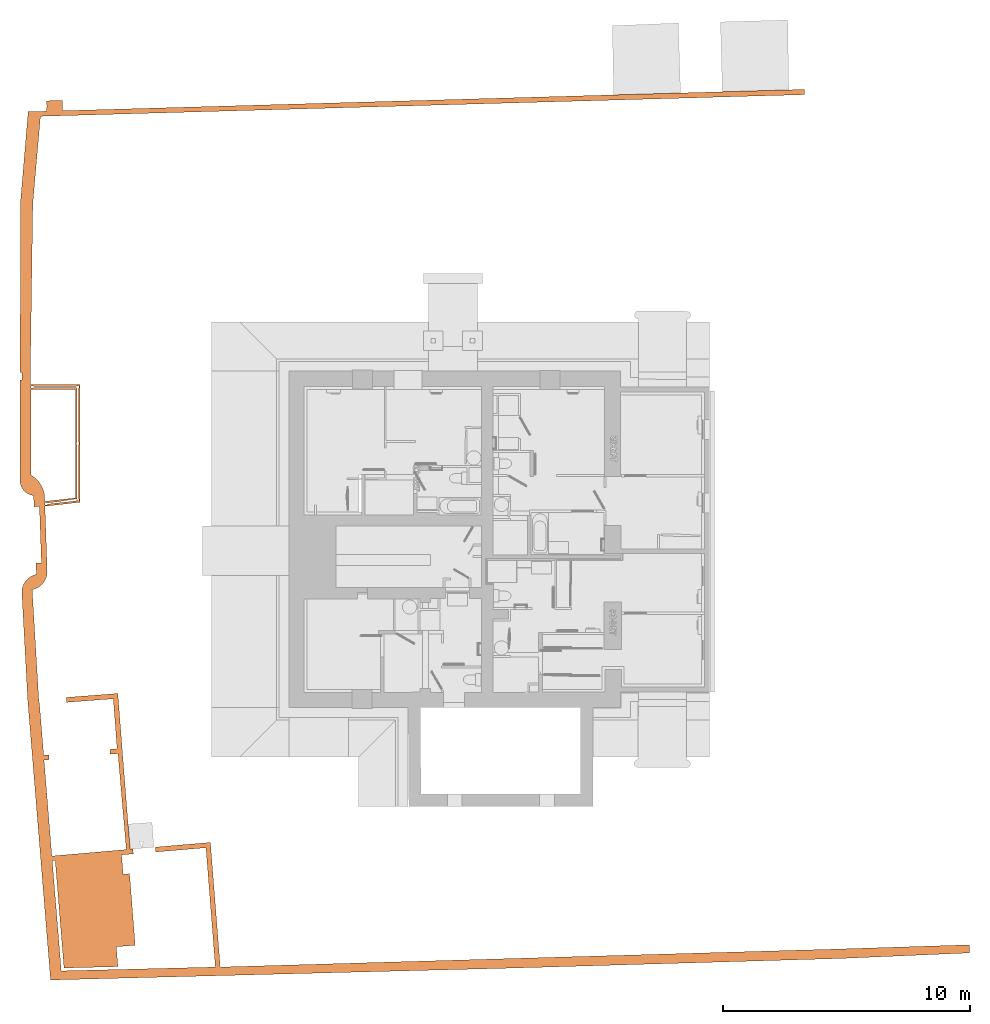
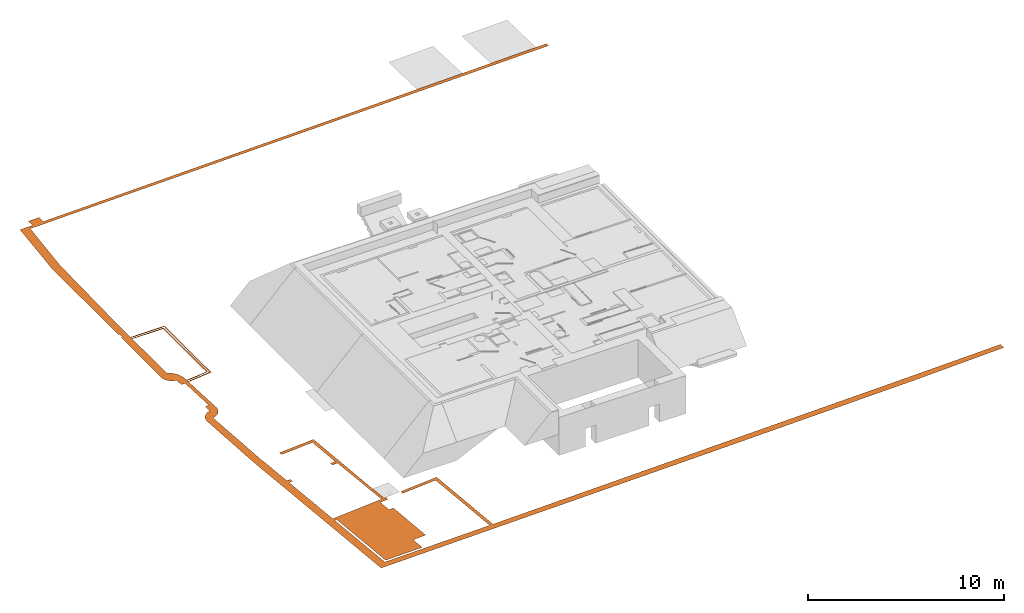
# Not in any storey, part 14 of 22: 1 proxy.
"""IFC4 model written with IfcOpenShell, lengths in metres."""

from ifc_helpers import new_model, si_unit, direction, origin_with_axes, place, context, subcontext, project, faceted_brep, element, save


model = new_model("IFC4")

# Units and contexts
model_context = context("Model", 3, precision=1e-05, world=origin_with_axes(), true_north=direction((1.0, 0.0)))
body_context = subcontext(model_context, "Body", "Model", "MODEL_VIEW")
ifc_project = project(units=[si_unit("LENGTHUNIT", "METRE"), si_unit("AREAUNIT", "SQUARE_METRE"), si_unit("VOLUMEUNIT", "CUBIC_METRE"), si_unit("MASSUNIT", "GRAM", prefix="KILO"), si_unit("TIMEUNIT", "SECOND"), si_unit("PLANEANGLEUNIT", "RADIAN"), si_unit("SOLIDANGLEUNIT", "STERADIAN")], contexts=[model_context])

# Proxy
proxy_placement = place(None, origin_with_axes())
element("IfcBuildingElementProxy", 1, at=proxy_placement, Name="Undefined", PredefinedType="NOTDEFINED", context=body_context, shape_type="Brep", body=[
    faceted_brep([(130.499933, 21.957707, 2.31), (130.487233, 22.385301, 2.31), (130.348478, 22.378694, 2.31), (130.262781, 22.374614, 2.31), (130.042705, 22.364135, 2.31), (130.059639, 21.911138, 2.31), (130.240905, 21.93031, 2.31), (130.398327, 14.04934, 2.31), (130.321352, 14.027348, 2.31), (130.27126, 14.013036, 2.31), (130.266721, 14.011739, 2.31), (130.229682, 14.001157, 2.31), (130.161246, 13.981605, 2.31), (130.170292, 13.875712, 2.31), (130.170375, 13.874742, 2.31), (130.173551, 13.837558, 2.31), (130.18116, 13.748498, 2.31), (130.22817, 13.198209, 2.31), (130.229042, 13.188003, 2.31), (130.229912, 13.177823, 2.31), (130.233218, 13.139117, 2.31), (130.241614, 13.138085, 2.31), (130.474532, 13.109481, 2.31), (130.453365, 13.371966, 2.31), (130.451533, 13.393134, 2.31), (130.447414, 13.443938, 2.31), (130.446534, 13.454795, 2.31), (130.445698, 13.465106, 2.31), (130.114674, 13.97737, 2.31), (130.127636, 13.816155, 2.31), (130.127681, 13.815602, 2.31), (130.130373, 13.782111, 2.31), (130.146434, 13.582356, 2.31), (130.181887, 13.141421, 2.31), (130.182381, 13.135282, 2.31), (130.186303, 13.135577, 2.31), (130.195979, 13.136308, 2.31), (130.00504, 13.969348, 2.31), (130.033404, 13.97177, 2.31), (130.005297, 13.969607, 2.31), (129.941099, 13.964669, 2.31), (130.008834, 13.122184, 2.31), (130.028048, 13.123662, 2.31), (130.118912, 13.13065, 2.31), (130.474521, 40.679063, 2.31), (130.474057, 40.678676, 2.31), (130.474532, 40.67869, 2.31), (131.122211, 40.697681, 2.31), (131.109573, 41.118983, 2.31), (130.461832, 41.097816, 2.31), (130.466066, 40.953873, 2.31), (130.466202, 40.9536, 2.31), (130.470299, 40.945406, 2.31), (130.478766, 40.93694, 2.31), (130.482999, 40.928473, 2.31), (130.487233, 40.920004, 2.31), (130.487233, 40.911537, 2.31), (130.491466, 40.90307, 2.31), (130.491466, 40.894603, 2.31), (130.491466, 40.881903, 2.31), (130.491466, 40.873436, 2.31), (130.491466, 40.864969, 2.31), (130.487233, 40.852267, 2.31), (130.482999, 40.8438, 2.31), (130.478766, 40.835333, 2.31), (130.474532, 40.826866, 2.31), (130.470299, 40.818397, 2.31), (145.610618, 5.854123, 2.31), (147.396717, 5.900174, 2.31), (147.397644, 5.901166, 2.31), (146.50617, 5.877748, 2.31), (146.054182, 5.865792, 2.31), (145.610714, 5.854226, 2.31), (145.406441, 5.848859, 2.31), (149.182814, 5.946229, 2.31), (149.184574, 5.94811, 2.31), (133.130395, 10.507215, 2.31), (132.535898, 10.457257, 2.31), (130.821857, 10.313214, 2.31), (130.850208, 9.965581, 2.31), (130.850226, 9.965363, 2.31), (130.850235, 9.965249, 2.31), (130.850571, 9.961133, 2.31), (130.85058, 9.961022, 2.31), (130.850666, 9.959966, 2.31), (130.850676, 9.959844, 2.31), (130.851191, 9.953526, 2.31), (130.851239, 9.952943, 2.31), (130.85126, 9.952676, 2.31), (130.851577, 9.948792, 2.31), (130.851606, 9.948441, 2.31), (130.851653, 9.947858, 2.31), (130.851922, 9.944562, 2.31), (130.854079, 9.918118, 2.31), (130.854116, 9.917664, 2.31), (130.854559, 9.912225, 2.31), (130.85498, 9.907071, 2.31), (130.85527, 9.903504, 2.31), (130.855279, 9.903401, 2.31), (130.855375, 9.902219, 2.31), (130.855814, 9.896848, 2.31), (130.859339, 9.853616, 2.31), (130.859356, 9.85341, 2.31), (130.859685, 9.849374, 2.31), (130.859704, 9.849145, 2.31), (130.859792, 9.848058, 2.31), (130.859803, 9.847932, 2.31), (130.860327, 9.841508, 2.31), (130.860374, 9.840928, 2.31), (130.860722, 9.836652, 2.31), (130.860792, 9.835801, 2.31), (130.86081, 9.835576, 2.31), (130.860837, 9.835252, 2.31), (130.862038, 9.820516, 2.31), (130.862809, 9.811074, 2.31), (130.863037, 9.808267, 2.31), (130.86354, 9.802102, 2.31), (130.863576, 9.801671, 2.31), (130.863581, 9.80161, 2.31), (130.863601, 9.801362, 2.31), (130.86361, 9.801248, 2.31), (130.863645, 9.800813, 2.31), (130.863747, 9.799573, 2.31), (130.863757, 9.799451, 2.31), (130.863768, 9.799306, 2.31), (130.863775, 9.799226, 2.31), (130.863787, 9.799081, 2.31), (130.863797, 9.798959, 2.31), (130.863815, 9.798734, 2.31), (130.863825, 9.798608, 2.31), (130.863844, 9.798383, 2.31), (130.863929, 9.797337, 2.31), (130.863963, 9.796914, 2.31), (130.863998, 9.796487, 2.31), (130.864034, 9.796052, 2.31), (130.864044, 9.795926, 2.31), (130.8641, 9.795247, 2.31), (130.864283, 9.792993, 2.31), (130.864318, 9.792561, 2.31), (130.864417, 9.791356, 2.31), (130.864462, 9.790799, 2.31), (130.865017, 9.783998, 2.31), (130.865036, 9.783765, 2.31), (130.865043, 9.783677, 2.31), (130.865051, 9.783578, 2.31), (130.865405, 9.779233, 2.31), (130.865424, 9.779004, 2.31), (130.865431, 9.778913, 2.31), (130.86544, 9.778813, 2.31), (130.866356, 9.767571, 2.31), (130.866518, 9.765588, 2.31), (130.866553, 9.765161, 2.31), (130.877452, 9.631524, 2.31), (130.916289, 9.155301, 2.31), (130.922245, 9.08228, 2.31), (130.988472, 8.270219, 2.31), (130.990402, 8.246549, 2.31), (130.993034, 8.21428, 2.31), (130.993187, 8.212407, 2.31), (130.993197, 8.212281, 2.31), (130.993722, 8.205842, 2.31), (130.994432, 8.197133, 2.31), (130.994474, 8.196618, 2.31), (130.995664, 8.182031, 2.31), (130.997662, 8.157525, 2.31), (130.999066, 8.140309, 2.31), (131.000666, 8.120698, 2.31), (131.015142, 7.943192, 2.31), (131.027911, 7.786618, 2.31), (131.061749, 7.371701, 2.31), (131.07452, 7.215116, 2.31), (131.076501, 7.190816, 2.31), (131.084165, 7.096837, 2.31), (131.087375, 7.057492, 2.31), (131.095245, 6.960984, 2.31), (131.108358, 6.800199, 2.31), (131.121127, 6.643628, 2.31), (131.154965, 6.228703, 2.31), (131.167734, 6.072133, 2.31), (131.177312, 5.954698, 2.31), (131.507532, 5.963166, 2.31), (131.681107, 5.967401, 2.31), (133.36608, 6.009732, 2.31), (133.298343, 6.814118, 2.31), (133.803061, 6.853158, 2.31), (134.064626, 6.873387, 2.31), (133.854548, 9.542165, 2.31), (133.836012, 9.777638, 2.31), (133.620097, 9.756471, 2.31), (133.57776, 9.752236, 2.31), (133.518492, 10.442315, 2.31), (133.510064, 10.53922, 2.31), (130.756457, 10.499284, 2.31), (130.686212, 10.493119, 2.31), (130.703146, 10.302606, 2.31), (130.784722, 10.309483, 2.31), (132.519487, 10.652532, 2.31), (130.775167, 10.500924, 2.31), (152.703363, 41.106888, 2.31), (152.387787, 41.097964, 2.31), (152.387648, 41.097816, 2.31), (153.209001, 41.121187, 2.31), (153.730928, 41.137224, 2.31), (157.180086, 41.23329, 2.31), (157.307747, 41.238221, 2.31), (157.340652, 41.239492, 2.31), (157.340961, 41.239504, 2.31), (160.181707, 41.322197, 2.31), (160.181707, 41.53302, 2.31), (159.948637, 41.52632, 2.31), (159.911936, 41.525265, 2.31), (159.643841, 41.517558, 2.31), (159.339027, 41.508796, 2.31), (159.038425, 41.500155, 2.31), (158.733629, 41.491393, 2.31), (158.433029, 41.482752, 2.31), (158.128233, 41.473991, 2.31), (157.85712, 41.466197, 2.31), (156.167902, 41.417639, 2.31), (155.871551, 41.409121, 2.31), (155.575186, 41.400601, 2.31), (155.274622, 41.391961, 2.31), (154.978269, 41.383443, 2.31), (154.681921, 41.374924, 2.31), (154.385555, 41.366404, 2.31), (154.084989, 41.357764, 2.31), (153.788641, 41.349246, 2.31), (153.454342, 41.339636, 2.31), (131.26981, 40.701924, 2.31), (131.148172, 40.497344, 2.31), (152.38895, 41.099203, 2.31), (132.742843, 10.671956, 2.31), (133.493214, 10.737203, 2.31), (132.880323, 10.683911, 2.31), (132.880201, 10.6839, 2.31), (132.869438, 10.682961, 2.31), (132.868746, 10.682904, 2.31), (132.852543, 10.681493, 2.31), (132.849739, 10.681249, 2.31), (132.848439, 10.681138, 2.31), (132.83922, 10.680337, 2.31), (132.831757, 10.679688, 2.31), (132.827301, 10.679299, 2.31), (132.821789, 10.678819, 2.31), (132.819095, 10.678586, 2.31), (132.756989, 10.673184, 2.31), (129.398606, 28.174703, 2.31), (129.396733, 26.936421, 2.31), (129.414916, 26.936421, 2.31), (129.788687, 26.936421, 2.31), (129.836931, 26.936421, 2.31), (129.830642, 29.399561, 2.31), (129.830159, 29.588756, 2.31), (129.830131, 29.599835, 2.31), (129.826792, 30.907539, 2.31), (129.832867, 31.319179, 2.31), (129.834655, 31.440333, 2.31), (129.837631, 31.642018, 2.31), (129.855518, 32.854028, 2.31), (129.876381, 34.267728, 2.31), (129.890293, 35.21311, 2.31), (129.911196, 36.626855, 2.31), (129.915698, 36.931953, 2.31), (129.931488, 37.112778, 2.31), (130.021008, 38.137963, 2.31), (130.065551, 38.648067, 2.31), (130.11044, 39.16306, 2.31), (130.155071, 39.673254, 2.31), (130.199616, 40.183394, 2.31), (130.224752, 40.471243, 2.31), (130.477259, 40.47838, 2.31), (130.925943, 40.491063, 2.31), (129.725186, 40.657523, 2.31), (129.634231, 39.584501, 2.31), (129.590702, 39.070979, 2.31), (129.547373, 38.557656, 2.31), (129.460927, 37.539983, 2.31), (129.417791, 37.031097, 2.31), (129.411899, 36.961589, 2.31), (129.410591, 36.096797, 2.31), (129.409885, 35.630375, 2.31), (129.409179, 35.163928, 2.31), (129.408474, 34.697477, 2.31), (129.407665, 34.230916, 2.31), (129.40637, 33.306881, 2.31), (129.405664, 32.840439, 2.31), (129.404959, 32.373992, 2.31), (129.404253, 31.907545, 2.31), (129.403457, 31.45921, 2.31), (129.402855, 30.983379, 2.31), (129.402149, 30.516941, 2.31), (129.401504, 30.090455, 2.31), (129.438791, 30.090455, 2.31), (129.4754, 30.090455, 2.31), (129.4754, 29.942279, 2.31), (129.4754, 29.789868, 2.31), (129.440409, 29.789868, 2.31), (129.401049, 29.789868, 2.31), (129.400788, 29.617292, 2.31), (129.400738, 29.584084, 2.31), (129.400534, 29.449195, 2.31), (129.400534, 29.449113, 2.31), (129.400115, 29.171987, 2.31), (129.400069, 29.141691, 2.31), (129.400033, 29.117617, 2.31), (129.39969, 28.92766, 2.31), (129.398986, 28.481402, 2.31), (129.398774, 28.30754, 2.31), (129.395354, 26.02535, 2.31), (129.394965, 25.933059, 2.31), (129.788687, 25.933059, 2.31), (129.788687, 25.983861, 2.31), (129.839492, 25.983861, 2.31), (129.839492, 26.013497, 2.31), (129.838458, 26.338382, 2.31), (129.83706, 26.885619, 2.31), (129.788687, 26.885619, 2.31), (129.839492, 25.933059, 2.31), (129.394965, 25.767949, 2.31), (129.39644, 25.675031, 2.31), (129.398875, 25.645148, 2.31), (129.404641, 25.605872, 2.31), (129.412926, 25.56705, 2.31), (129.423694, 25.528842, 2.31), (129.436901, 25.491406, 2.31), (129.438388, 25.487925, 2.31), (129.450537, 25.459475, 2.31), (129.452492, 25.4549, 2.31), (129.470402, 25.419473, 2.31), (129.477109, 25.408092, 2.31), (129.490557, 25.385274, 2.31), (129.512873, 25.352445, 2.31), (129.537257, 25.32112, 2.31), (129.563609, 25.29143, 2.31), (129.591819, 25.263501, 2.31), (129.621769, 25.237447, 2.31), (129.653335, 25.213376, 2.31), (129.683653, 25.193208, 2.31), (129.686386, 25.19139, 2.31), (129.720785, 25.171576, 2.31), (129.756388, 25.154021, 2.31), (129.793049, 25.138795, 2.31), (129.804372, 25.134927, 2.31), (129.830614, 25.125962, 2.31), (129.868928, 25.115577, 2.31), (129.907831, 25.10768, 2.31), (129.945359, 25.102551, 2.31), (129.945332, 25.103272, 2.31), (129.984621, 25.100306, 2.31), (130.263638, 25.079249, 2.31), (130.394093, 25.069404, 2.31), (130.390154, 25.095998, 2.31), (130.380231, 25.162972, 2.31), (130.374799, 25.191527, 2.31), (130.371487, 25.20894, 2.31), (130.353809, 25.277701, 2.31), (130.341086, 25.316707, 2.31), (130.331793, 25.345201, 2.31), (130.317792, 25.380359, 2.31), (130.306749, 25.408092, 2.31), (130.305527, 25.41116, 2.31), (130.295539, 25.432235, 2.31), (130.253879, 25.513625, 2.31), (130.240692, 25.537408, 2.31), (130.202384, 25.597184, 2.31), (130.195213, 25.606946, 2.31), (130.160351, 25.654403, 2.31), (130.131625, 25.688699, 2.31), (130.116785, 25.706416, 2.31), (130.114763, 25.708831, 2.31), (130.080979, 25.744313, 2.31), (130.065806, 25.760249, 2.31), (130.013677, 25.808448, 2.31), (129.993629, 25.824746, 2.31), (129.982976, 25.833407, 2.31), (129.958587, 25.853234, 2.31), (129.95418, 25.856374, 2.31), (129.949243, 25.859889, 2.31), (129.900759, 25.894425, 2.31), (129.870595, 25.913138, 2.31), (130.406793, 24.667212, 2.31), (130.182413, 24.654511, 2.31), (130.196463, 24.255948, 2.31), (130.207031, 23.956145, 2.31), (130.46966, 22.883807, 2.31), (130.415832, 24.410794, 2.31), (130.603441, 5.825284, 2.31), (131.068286, 5.836862, 2.31), (130.715846, 10.154427, 2.31), (130.25457, 10.114087, 2.31), (133.775993, 11.789979, 2.31), (133.772507, 11.830934, 2.31), (133.674079, 11.823228, 2.31), (133.673898, 11.823216, 2.31), (133.673533, 11.823186, 2.31), (133.61163, 11.818234, 2.31), (133.614595, 11.784406, 2.31), (133.614612, 11.784207, 2.31), (133.614621, 11.784108, 2.31), (133.614857, 11.781415, 2.31), (133.615127, 11.778336, 2.31), (133.615136, 11.778237, 2.31), (133.615278, 11.776616, 2.31), (133.615287, 11.776509, 2.31), (133.616068, 11.767602, 2.31), (133.616114, 11.767079, 2.31), (133.616644, 11.761029, 2.31), (133.616687, 11.760537, 2.31), (133.616732, 11.760018, 2.31), (133.617159, 11.755151, 2.31), (133.620377, 11.718438, 2.31), (133.620412, 11.718038, 2.31), (133.621109, 11.710084, 2.31), (133.621705, 11.703279, 2.31), (133.62214, 11.698323, 2.31), (133.622148, 11.698235, 2.31), (133.622453, 11.694749, 2.31), (133.62287, 11.69, 2.31), (133.6963, 10.848741, 2.31), (133.696581, 10.849027, 2.31), (133.704769, 10.755601, 2.31), (133.862897, 10.769059, 2.31), (133.839745, 11.041036, 2.31), (133.818564, 11.289872, 2.31), (133.797617, 11.535947, 2.31), (133.701996, 12.733493, 2.31), (133.531193, 12.719991, 2.31), (133.533559, 12.693456, 2.31), (133.544802, 12.567418, 2.31), (133.546254, 12.551146, 2.31), (133.578281, 12.19209, 2.31), (133.580543, 12.166741, 2.31), (133.585943, 12.106202, 2.31), (133.586015, 12.105397, 2.31), (133.586573, 12.099141, 2.31), (133.58659, 12.098954, 2.31), (133.587438, 12.089436, 2.31), (133.587586, 12.087785, 2.31), (133.588096, 12.082067, 2.31), (133.588134, 12.081643, 2.31), (133.595408, 12.000089, 2.31), (133.602503, 11.920552, 2.31), (133.602522, 11.920342, 2.31), (133.602601, 11.91945, 2.31), (133.60262, 11.91924, 2.31), (133.603124, 11.91359, 2.31), (133.603143, 11.913381, 2.31), (133.603202, 11.912717, 2.31), (133.603211, 11.912614, 2.31), (133.604071, 11.90297, 2.31), (133.60409, 11.90276, 2.31), (133.604691, 11.896016, 2.31), (133.604699, 11.895936, 2.31), (133.60471, 11.895806, 2.31), (133.604718, 11.895726, 2.31), (133.605214, 11.890157, 2.31), (133.605233, 11.889947, 2.31), (131.880225, 16.765683, 2.31), (131.880087, 16.767314, 2.31), (131.863179, 16.965985, 2.31), (131.74482, 16.956933, 2.31), (131.175237, 16.913373, 2.31), (131.174911, 16.913041, 2.31), (131.174631, 16.912755, 2.31), (131.266214, 16.919724, 2.31), (131.270447, 16.86892, 2.31), (131.283152, 16.720744, 2.31), (130.961984, 16.695943, 2.31), (130.961394, 16.695342, 2.31), (131.599646, 16.744203, 2.31), (132.042844, 16.778132, 2.31), (133.175569, 16.864686, 2.31), (133.179945, 16.807807, 2.31), (133.184944, 16.742818, 2.31), (133.214275, 16.361505, 2.31), (133.223653, 16.239594, 2.31), (133.232382, 16.126115, 2.31), (133.23254, 16.124059, 2.31), (133.233393, 16.112969, 2.31), (133.233433, 16.112454, 2.31), (133.234086, 16.103963, 2.31), (133.234125, 16.103448, 2.31), (133.252985, 15.858272, 2.31), (133.253572, 15.850633, 2.31), (133.25359, 15.850402, 2.31), (133.254341, 15.84064, 2.31), (133.254382, 15.840116, 2.31), (133.256007, 15.818988, 2.31), (133.45922, 15.835921, 2.31), (133.412652, 16.424392, 2.31), (133.383014, 16.801181, 2.31), (133.361238, 17.079894, 2.31), (133.361187, 17.08055, 2.31), (133.17203, 14.626395, 2.31), (133.36608, 14.642045, 2.31), (133.37252, 14.567082, 2.31), (133.372724, 14.564708, 2.31), (133.373916, 14.55082, 2.31), (133.373948, 14.550456, 2.31), (133.375137, 14.536611, 2.31), (133.375153, 14.536427, 2.31), (133.377229, 14.512261, 2.31), (133.377276, 14.511712, 2.31), (133.377787, 14.505759, 2.31), (133.377819, 14.505393, 2.31), (133.379476, 14.4861, 2.31), (133.400913, 14.23656, 2.31), (133.454986, 13.609048, 2.31), (133.476601, 13.355479, 2.31), (133.488627, 13.215491, 2.31), (133.506778, 13.004203, 2.31), (133.528759, 14.943145, 2.31), (133.416324, 14.933576, 2.31), (133.402496, 14.932399, 2.31), (133.321761, 14.925528, 2.31), (133.32683, 14.856637, 2.31), (133.327979, 14.841023, 2.31), (133.323343, 14.840621, 2.31), (133.309645, 14.839431, 2.31), (133.174986, 14.827722, 2.31), (133.03586, 14.815623, 2.31), (133.052793, 14.616645, 2.31), (133.090259, 14.619765, 2.31), (133.103599, 14.620877, 2.31), (134.898457, 10.656255, 2.31), (136.930774, 10.827573, 2.31), (137.311797, 5.992799, 2.31), (134.144954, 5.913686, 2.31), (133.92915, 5.908128, 2.31), (132.413534, 5.870374, 2.31), (131.549866, 5.848859, 2.31), (130.632259, 5.467927, 2.31), (137.539513, 5.64602, 2.31), (137.512094, 5.992837, 2.31), (137.148629, 10.590512, 2.31), (137.148478, 10.59242, 2.31), (137.146006, 10.623681, 2.31), (137.142246, 10.67125, 2.31), (137.142224, 10.671529, 2.31), (137.142186, 10.672009, 2.31), (137.142166, 10.672265, 2.31), (137.132232, 10.797925, 2.31), (137.11282, 11.043485, 2.31), (137.011059, 11.034863, 2.31), (136.869899, 11.022908, 2.31), (136.270332, 10.971513, 2.31), (136.117921, 10.958814, 2.31), (135.673393, 10.920712, 2.31), (134.881936, 10.854489, 2.31), (133.769392, 10.560266, 2.31), (133.988311, 10.579534, 2.31), (133.975865, 10.778676, 2.31), (133.671326, 10.552812, 2.31), (133.6709, 10.552388, 2.31), (137.011212, 11.03502, 2.31), (133.361847, 17.0806, 2.31), (133.282167, 15.463517, 2.31), (133.260129, 15.762967, 2.31), (133.261427, 15.745337, 2.31), (133.270815, 15.61777, 2.31), (133.271423, 15.609506, 2.31), (133.276878, 15.535388, 2.31), (133.277553, 15.526219, 2.31), (133.277712, 15.52406, 2.31), (133.278175, 15.517772, 2.31), (133.278541, 15.51279, 2.31), (133.280943, 15.480157, 2.31), (133.280982, 15.479621, 2.31), (152.687746, 6.436807, 2.31), (153.136814, 6.449838, 2.31), (153.136995, 6.450028, 2.31), (143.289641, 6.162145, 2.31), (142.840307, 6.148835, 2.31), (142.391122, 6.135682, 2.31), (141.941941, 6.122533, 2.31), (141.497084, 6.109509, 2.31), (141.04794, 6.096356, 2.31), (140.59877, 6.083207, 2.31), (138.810492, 6.0309, 2.31), (138.365609, 6.017827, 2.31), (137.916421, 6.004674, 2.31), (149.628116, 5.95976, 2.31), (150.076101, 5.971631, 2.31), (150.241215, 5.975865, 2.31), (150.969393, 5.997033, 2.31), (151.418743, 6.010369, 2.31), (151.73757, 6.019711, 2.31), (151.86359, 6.023404, 2.31), (152.312786, 6.036565, 2.31), (155.444309, 6.128274, 2.31), (155.893553, 6.141488, 2.31), (156.342735, 6.154649, 2.31), (159.92346, 6.259515, 2.31), (160.372702, 6.272733, 2.31), (162.66683, 6.339955, 2.31), (163.060556, 6.356889, 2.31), (166.237207, 6.493924, 2.31), (166.688749, 6.513532, 2.31), (167.595549, 6.552503, 2.31), (167.869928, 6.564336, 2.31), (167.869928, 6.894555, 2.31), (167.471968, 6.881852, 2.31), (167.021395, 6.867227, 2.31), (166.57097, 6.852719, 2.31), (166.124575, 6.838342, 2.31), (165.674143, 6.823834, 2.31), (165.227758, 6.809457, 2.31), (164.777311, 6.794949, 2.31), (163.880476, 6.766065, 2.31), (163.430036, 6.751561, 2.31), (162.979303, 6.737042, 2.31), (162.528879, 6.722535, 2.31), (162.480554, 6.720979, 2.31), (162.083982, 6.70947, 2.31), (160.296015, 6.657475, 2.31), (159.847051, 6.644559, 2.31), (159.397982, 6.631528, 2.31), (158.95326, 6.618623, 2.31), (158.504188, 6.605592, 2.31), (158.055117, 6.592561, 2.31), (157.61038, 6.579652, 2.31), (157.161331, 6.566621, 2.31), (156.71228, 6.55359, 2.31), (156.267538, 6.540685, 2.31), (155.818464, 6.527654, 2.31), (153.581524, 6.462728, 2.31), (152.238672, 6.423772, 2.31), (151.789616, 6.410741, 2.31), (151.723657, 6.40883, 2.31), (151.392752, 6.399224, 2.31), (151.344871, 6.397824, 2.31), (150.895685, 6.384675, 2.31), (150.446527, 6.371522, 2.31), (150.001675, 6.358499, 2.31), (148.213318, 6.306085, 2.31), (147.764189, 6.292993, 2.31), (147.315004, 6.279839, 2.31), (146.865837, 6.26669, 2.31), (146.420978, 6.253667, 2.31), (145.971813, 6.240518, 2.31), (145.522634, 6.227365, 2.31), (145.077778, 6.214341, 2.31), (129.831025, 29.400376, 2.31), (129.838318, 29.400376, 2.31), (129.920586, 29.400376, 2.31), (129.923113, 29.400376, 2.31), (131.561149, 29.400376, 2.31), (131.585047, 29.400376, 2.31), (131.634539, 29.400376, 2.31), (131.634539, 29.282418, 2.31), (131.634539, 28.693541, 2.31), (131.634539, 26.820029, 2.31), (131.634539, 25.0059, 2.31), (130.902158, 24.923131, 2.31), (130.637385, 24.893208, 2.31), (130.400502, 24.866437, 2.31), (130.402099, 24.815881, 2.31), (130.4957, 24.828088, 2.31), (130.499036, 24.801393, 2.31), (130.600495, 24.812884, 2.31), (130.888627, 24.845521, 2.31), (131.681107, 24.967797, 2.31), (131.706512, 24.967797, 2.31), (131.706512, 26.953042, 2.31), (131.706512, 27.160802, 2.31), (131.681107, 27.160802, 2.31), (131.681107, 27.258176, 2.31), (131.706512, 27.258176, 2.31), (131.706512, 28.915633, 2.31), (131.706512, 29.434288, 2.31), (131.706512, 29.451181, 2.31), (131.689583, 29.451181, 2.31), (131.681107, 29.451181, 2.31), (131.681107, 29.472348, 2.31), (131.619829, 29.472348, 2.31), (131.569081, 29.472348, 2.31), (129.941099, 29.472348, 2.31), (129.941099, 29.471362, 2.31), (129.941099, 29.451181, 2.31), (129.935986, 29.451181, 2.31), (129.933456, 29.451181, 2.31), (129.851011, 29.451181, 2.31), (129.839492, 29.451181, 2.31), (129.839492, 29.472348, 2.31), (129.839492, 29.508103, 2.31), (129.839492, 29.523152, 2.31), (129.839492, 29.548554, 2.31), (129.849604, 29.548739, 2.31), (129.941099, 29.548554, 2.31), (129.941099, 29.523152, 2.31), (131.638907, 29.523152, 2.31), (131.64438, 29.523152, 2.31), (131.681107, 29.523152, 2.31), (131.681107, 29.548554, 2.31), (131.782714, 29.548554, 2.31), (131.782714, 29.451181, 2.31), (131.757313, 29.451181, 2.31), (131.757313, 29.383594, 2.31), (131.757313, 29.072394, 2.31), (131.757313, 27.258176, 2.31), (131.782714, 27.258176, 2.31), (131.782714, 27.160802, 2.31), (131.757313, 27.160802, 2.31), (131.757313, 27.046929, 2.31), (131.757313, 24.967797, 2.31), (131.782714, 24.967797, 2.31), (131.782714, 24.866191, 2.31), (131.753509, 24.895396, 2.31), (131.704816, 24.889901, 2.31), (131.73191, 24.916995, 2.31), (131.706512, 24.942393, 2.31), (131.706512, 24.938163, 2.31), (131.681107, 24.935285, 2.31), (131.681107, 24.887225, 2.31), (130.880138, 24.796836, 2.31), (130.577436, 24.762675, 2.31), (130.504899, 24.754489, 2.31), (130.5084, 24.726481, 2.31), (130.406793, 24.718015, 2.31), (130.404274, 24.746985, 2.31), (130.540519, 24.68229, 2.31), (130.866578, 24.719056, 2.31), (131.833519, 24.828088, 2.31), (131.833519, 27.187768, 2.31), (131.833519, 29.307549, 2.31), (131.833519, 29.599356, 2.31), (131.681207, 29.599356, 2.31), (129.831025, 29.599356, 2.31), (130.328532, 24.663485, 2.31), (130.4029, 24.790503, 2.31), (130.400443, 24.868316, 2.31), (130.399952, 24.883872, 2.31), (129.946219, 25.102435, 2.31), (129.962266, 24.646045, 2.31), (130.653085, 10.149213, 2.31), (130.712723, 10.190865, 2.31), (130.705329, 10.277139, 2.31), (130.683415, 10.527699, 2.31), (130.660228, 10.814282, 2.31), (130.651307, 10.924546, 2.31), (130.650403, 10.935727, 2.31), (130.629807, 11.190293, 2.31), (130.609526, 11.440965, 2.31), (130.599384, 11.566316, 2.31), (130.588839, 11.695458, 2.31), (157.307093, 41.237524, 2.31), (157.340961, 41.238482, 2.31), (160.249239, 41.534961, 2.31), (160.181707, 41.319988, 2.31), (160.181707, 41.319744, 2.31), (160.440782, 41.327328, 2.31), (160.558496, 41.330663, 2.31), (160.885603, 41.340323, 2.31), (161.187834, 41.349248, 2.31), (161.187834, 41.561941, 2.31), (160.554033, 41.543722, 2.31), (129.687494, 17.182458, 2.31), (129.708252, 16.801181, 2.31), (129.726231, 16.580749, 2.31), (130.392142, 14.118251, 2.31), (130.387308, 14.172116, 2.31), (130.386534, 14.180753, 2.31), (130.383684, 14.212508, 2.31), (130.372179, 14.340705, 2.31), (130.368693, 14.379563, 2.31), (130.419494, 14.383798, 2.31), (130.53705, 14.393077, 2.31), (130.580372, 14.396497, 2.31), (130.579376, 14.408202, 2.31), (130.575989, 14.448007, 2.31), (130.563439, 14.595477, 2.31), (130.485207, 14.589217, 2.31), (130.474926, 14.588395, 2.31), (130.355965, 14.578877, 2.31), (130.186646, 16.636071, 2.31), (130.157012, 16.835052, 2.31), (130.15242, 16.911664, 2.31), (130.138344, 17.146487, 2.31), (130.126541, 17.343379, 2.31), (130.112248, 17.581826, 2.31), (130.068344, 18.311789, 2.31), (130.059639, 18.456521, 2.31), (130.040022, 18.78674, 2.31), (130.033711, 18.89202, 2.31), (130.007616, 19.327348, 2.31), (129.929159, 20.636199, 2.31), (129.890293, 21.284564, 2.31), (129.892828, 21.285569, 2.31), (129.936032, 21.296178, 2.31), (129.982252, 21.310636, 2.31), (130.027482, 21.327945, 2.31), (130.071546, 21.348039, 2.31), (130.105567, 21.366195, 2.31), (130.114272, 21.370839, 2.31), (130.155493, 21.396256, 2.31), (130.195051, 21.424195, 2.31), (130.232792, 21.454543, 2.31), (130.268567, 21.487185, 2.31), (130.30224, 21.521991, 2.31), (130.318946, 21.541568, 2.31), (130.333678, 21.558829, 2.31), (130.362759, 21.597554, 2.31), (130.389371, 21.638017, 2.31), (130.41341, 21.680057, 2.31), (130.434783, 21.723515, 2.31), (130.453405, 21.76822, 2.31), (130.469207, 21.813998, 2.31), (130.482125, 21.860673, 2.31), (130.492109, 21.908061, 2.31), (130.498381, 21.950915, 2.31), (130.499122, 21.955979, 2.31), (130.059146, 21.909287, 2.31), (130.014582, 21.897841, 2.31), (129.96887, 21.882962, 2.31), (129.924191, 21.865222, 2.31), (129.880723, 21.844691, 2.31), (129.838639, 21.821454, 2.31), (129.79811, 21.795604, 2.31), (129.759296, 21.767241, 2.31), (129.722353, 21.736482, 2.31), (129.687429, 21.703446, 2.31), (129.654664, 21.668269, 2.31), (129.624188, 21.631091, 2.31), (129.596125, 21.592061, 2.31), (129.570585, 21.551333, 2.31), (129.547672, 21.509074, 2.31), (129.527477, 21.465449, 2.31), (129.510081, 21.420634, 2.31), (129.495553, 21.37481, 2.31), (129.483952, 21.328158, 2.31), (129.475324, 21.280868, 2.31), (129.466933, 21.233762, 2.31), (129.4754, 21.081351, 2.31), (129.499058, 20.643699, 2.31), (129.522888, 20.205972, 2.31), (129.538764, 19.914363, 2.31), (129.543922, 19.819629, 2.31), (129.543931, 19.819449, 2.31), (129.564102, 19.448956, 2.31), (129.56854, 19.367433, 2.31), (129.570536, 19.330762, 2.31), (129.594585, 18.889031, 2.31), (129.603797, 18.719817, 2.31), (129.632709, 18.188764, 2.31), (129.642233, 18.013816, 2.31), (129.646442, 17.936513, 2.31), (129.647555, 17.916076, 2.31), (129.666282, 17.572093, 2.31)], [[[0, 1, 2, 3, 4, 5, 6]], [[7, 8, 9, 10, 11, 12, 13, 14, 15, 16, 17, 18, 19, 20, 21, 22, 23, 24, 25, 26, 27]], [[12, 28, 29, 30, 31, 32, 33, 34, 35, 36, 20, 19, 18, 17, 16, 15, 14, 13]], [[37, 28, 12, 38, 39]], [[37, 40, 41, 42, 43, 34, 33, 32, 31, 30, 29, 28]], [[44, 45, 46]], [[46, 47, 48, 49, 50, 51, 52, 53, 54, 55, 56, 57, 58, 59, 60, 61, 62, 63, 64, 65, 66, 44]], [[67, 68, 69, 70, 71, 72]], [[73, 67, 72]], [[68, 74, 75, 69]], [[76, 77, 78, 79, 80, 81, 82, 83, 84, 85, 86, 87, 88, 89, 90, 91, 92, 93, 94, 95, 96, 97, 98, 99, 100, 101, 102, 103, 104, 105, 106, 107, 108, 109, 110, 111, 112, 113, 114, 115, 116, 117, 118, 119, 120, 121, 122, 123, 124, 125, 126, 127, 128, 129, 130, 131, 132, 133, 134, 135, 136, 137, 138, 139, 140, 141, 142, 143, 144, 145, 146, 147, 148, 149, 150, 151, 152, 153, 154, 155, 156, 157, 158, 159, 160, 161, 162, 163, 164, 165, 166, 167, 168, 169, 170, 171, 172, 173, 174, 175, 176, 177, 178, 179, 180, 181, 182, 183, 184, 185, 186, 187, 188, 189, 190, 191]], [[192, 193, 194, 195, 78, 77, 196, 197]], [[198, 199, 200]], [[198, 201, 202, 203, 204, 205, 206, 207, 208, 209, 210, 211, 212, 213, 214, 215, 216, 217, 218, 219, 220, 221, 222, 223, 224, 225, 226, 227, 228, 229, 230, 199]], [[231, 196, 77, 76, 191, 232, 233, 234, 235, 236, 237, 238, 239, 240, 241, 242, 243, 244, 245]], [[246, 247, 248, 249, 250, 251, 252, 253, 254, 255, 256, 257, 258, 259, 260, 261, 262, 263, 264, 265, 266, 267, 268, 269, 270, 271, 229, 228, 47, 46, 45, 272, 273, 274, 275, 276, 277, 278, 279, 280, 281, 282, 283, 284, 285, 286, 287, 288, 289, 290, 291, 292, 293, 294, 295, 296, 297, 298, 299, 300, 301, 302, 303, 304, 305, 306, 307]], [[247, 308, 309, 310, 311, 312, 313, 314, 315, 316, 249, 248]], [[317, 310, 309, 318, 319, 320, 321, 322, 323, 324, 325, 326, 327, 328, 329, 330, 331, 332, 333, 334, 335, 336, 337, 338, 339, 340, 341, 342, 343, 344, 345, 346, 347, 348, 349, 350, 351, 352, 353, 354, 355, 356, 357, 358, 359, 360, 361, 362, 363, 364, 365, 366, 367, 368, 369, 370, 371, 372, 373, 374, 375, 376, 377, 378, 379]], [[315, 250, 249, 316]], [[317, 312, 311, 310]], [[380, 381, 382, 383, 3, 2, 1, 384, 385]], [[386, 387, 388, 389]], [[390, 391, 392, 393, 394, 395, 396, 397, 398, 399, 400, 401, 402, 403, 404, 405, 406, 407, 408, 409, 410, 411, 412, 413, 414, 415, 416, 417, 418, 419, 420, 421, 422, 423, 424]], [[393, 392, 391, 425, 426, 427, 428, 429, 430, 431, 432, 433, 434, 435, 436, 437, 438, 439, 440, 441, 442, 443, 444, 445, 446, 447, 448, 449, 450, 451, 452, 453, 454, 455, 456, 395, 394]], [[457, 458, 459, 460, 461, 462, 463, 464, 465, 466, 467, 468, 469]], [[470, 471, 472, 473, 474, 475, 476, 477, 478, 479, 480, 481, 482, 483, 484, 485, 486, 487, 488, 489, 490, 491, 492, 459, 458, 457]], [[493, 494, 495, 496, 497, 498, 499, 500, 501, 502, 503, 504, 505, 506, 507, 508, 509, 510, 426, 425, 511, 512, 513, 514, 515, 516, 517, 518, 519, 520, 521, 522, 523]], [[524, 525, 526, 527, 528, 529, 530, 387, 386, 531, 532, 533, 534, 535, 536, 537, 538, 539, 540, 541, 542, 543, 544, 545, 546, 547, 548]], [[544, 548, 547, 546, 545]], [[549, 550, 551, 421, 420, 232, 191, 552, 553]], [[544, 543, 554]], [[543, 542, 554]], [[491, 555, 492]], [[556, 514, 513, 512, 511, 488, 487, 557, 558, 559, 560, 561, 562, 563, 564, 565, 566, 567]], [[568, 569, 570]], [[571, 572, 573, 574, 575, 576, 577, 578, 579, 580, 533, 532, 73, 72, 71, 70, 69, 75, 581, 582, 583, 584, 585, 586, 587, 588, 589, 590, 591, 592, 593, 594, 595, 596, 597, 598, 599, 600, 601, 602, 603, 604, 605, 606, 607, 608, 609, 610, 611, 612, 613, 614, 615, 616, 617, 618, 619, 620, 621, 622, 623, 624, 625, 569, 568, 626, 627, 628, 629, 630, 631, 632, 633, 634, 635, 636, 637, 638, 639, 640, 641]], [[252, 251, 642, 643, 644, 645, 646, 647, 648, 649, 650, 651, 652, 653, 654, 655, 656, 657, 658, 659, 660, 661, 662, 663, 664, 665, 666, 667, 668, 669, 670, 671, 672, 673, 674, 675, 676, 677, 678, 679, 680, 681, 682, 683, 684, 685, 686, 687, 688, 689, 690, 691, 692, 693, 694, 695, 696, 697, 698, 699, 700, 701, 702, 703, 704, 705, 706, 707, 708, 709, 710, 711, 712, 713, 714, 715, 716, 717, 718, 719, 380, 720, 721, 722, 723, 724, 725, 726, 727, 253]], [[40, 37, 39]], [[728, 380, 719, 729, 656, 655, 730, 731, 350, 349, 348, 347, 732, 346, 733]], [[41, 389, 734, 388, 735, 736, 194, 193, 737, 738, 739, 740, 741, 742, 743, 744, 22, 21, 20, 36, 35, 34, 43, 42]], [[205, 204, 745, 746]], [[746, 206, 205]], [[204, 203, 746, 745]], [[747, 208, 207, 748, 749, 750, 751, 752, 753, 754, 755]], [[756, 757, 758, 40, 39, 38, 12, 11, 10, 9, 8, 7, 759, 760, 761, 762, 763, 764, 765, 766, 767, 768, 769, 770, 771, 772, 773, 774, 775, 776, 777, 778, 779, 780, 781, 782, 783, 784, 785, 786, 787, 788, 789, 790, 791, 792, 793, 794, 795, 796, 797, 798, 799, 800, 801, 802, 803, 804, 805, 806, 807, 808, 809, 810, 5, 811, 812, 813, 814, 815, 816, 817, 818, 819, 820, 821, 822, 823, 824, 825, 826, 827, 828, 829, 830, 831, 832, 833, 834, 835, 836, 837, 838, 839, 840, 841, 842, 843, 844, 845, 846, 847]], [[5, 810, 809, 0, 6]]]),
])

save(model, "model.ifc")
